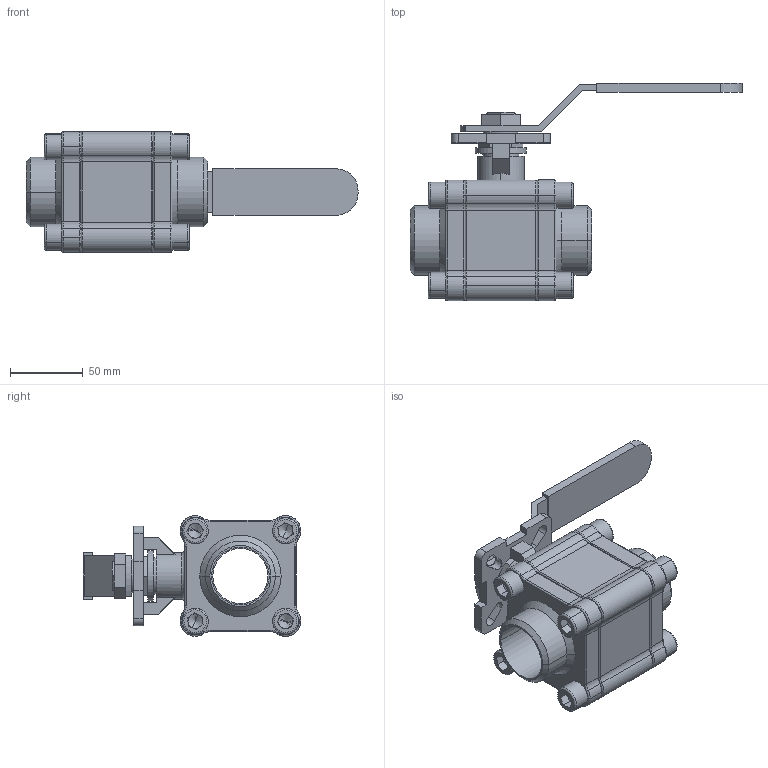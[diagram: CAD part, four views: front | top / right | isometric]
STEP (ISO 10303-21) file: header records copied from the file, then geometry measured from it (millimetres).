
FILE_DESCRIPTION (( 'STEP AP214' ), '1' );
FILE_NAME ('S33D DN40 BW HB.step', '2010-10-27T14:41:06', ( '' ), ( '' ), 'SwSTEP 2.0', 'SolidWorks 2010', '' );
FILE_SCHEMA (( 'AUTOMOTIVE_DESIGN' ));
Length unit declared in the file: millimetre
Products named in the file (5): S33D KK DN40 PN100; DIN 912 M12 x 30 --- 30N_DIN 912 M12 x 30 --- 30N; S33D Flens Buttweld DN40; Hendel S33D DN40; S33D DN40 BW HB
Assembly tree (12 placements, depth 2):
  S33D DN40 BW HB
    DIN 912 M12 x 30 --- 30N_DIN 912 M12 x 30 --- 30N  x8
    Hendel S33D DN40
    S33D KK DN40 PN100
    S33D Flens Buttweld DN40  x2
Bounding box: 228.88 x 150 x 83.2 mm (x, y, z)
Volume: 510055 mm3; surface area: 133893.7 mm2
Topology: 12 solids, 12 shells, 565 faces, 1328 edges, 794 vertices
Faces by surface type: plane 242, cylinder 165, torus 118, cone 40
Entity records: 9400 total; most frequent: DIRECTION 1728, CARTESIAN_POINT 1543, ORIENTED_EDGE 1500, EDGE_CURVE 750, AXIS2_PLACEMENT_3D 664, VERTEX_POINT 463, LINE 400, VECTOR 400
